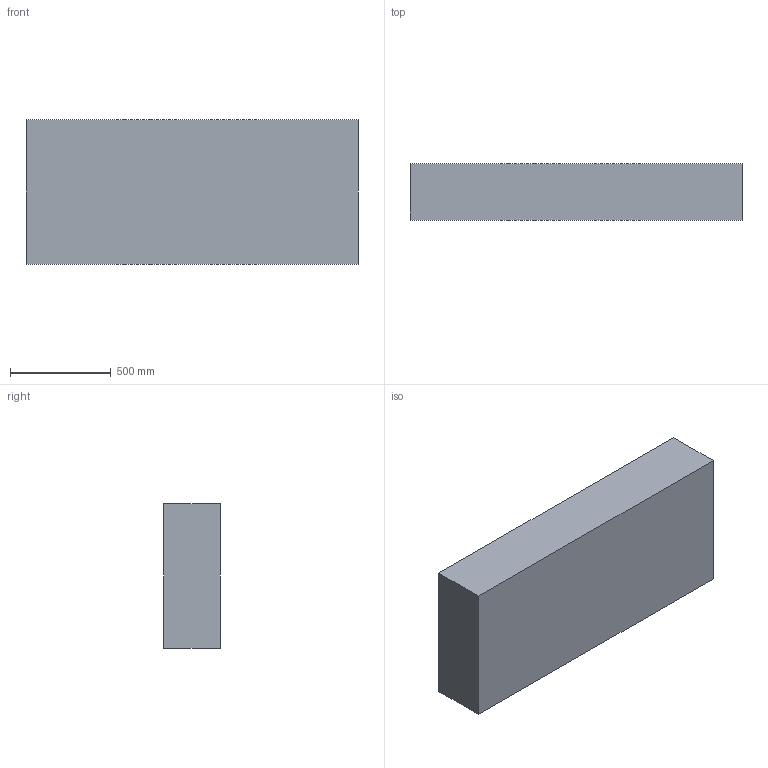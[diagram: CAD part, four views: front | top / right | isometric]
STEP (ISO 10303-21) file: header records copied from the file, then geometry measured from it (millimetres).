
FILE_DESCRIPTION(('FreeCAD Model'),'2;1');
FILE_NAME('Open CASCADE Shape Model','2026-07-29T15:08:31',('FreeCAD'),( 'FreeCAD'),'Open CASCADE STEP processor 7.8','FreeCAD','Unknown');
FILE_SCHEMA(('AUTOMOTIVE_DESIGN { 1 0 10303 214 1 1 1 1 }'));
Length unit declared in the file: millimetre
Products named in the file (1): Open CASCADE STEP translator 7.8 1
Bounding box: 1650 x 280 x 720 mm (x, y, z)
Volume: 332640000 mm3; surface area: 3703200 mm2
Topology: 1 solids, 1 shells, 6 faces, 12 edges, 8 vertices
Faces by surface type: plane 6
Entity records: 166 total; most frequent: CARTESIAN_POINT 27, DIRECTION 26, ORIENTED_EDGE 24, EDGE_CURVE 12, LINE 12, VECTOR 12, VERTEX_POINT 8, AXIS2_PLACEMENT_3D 7
